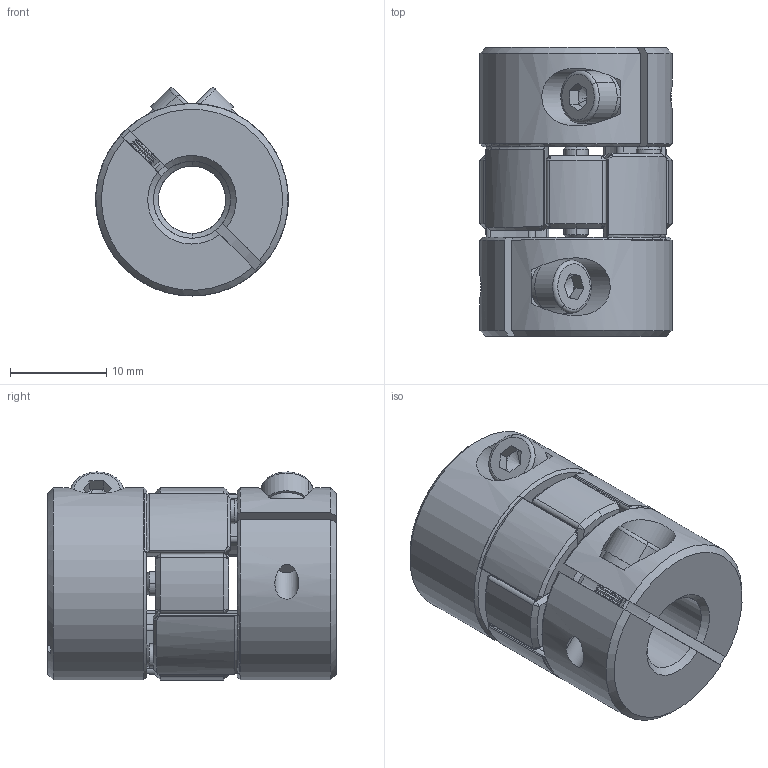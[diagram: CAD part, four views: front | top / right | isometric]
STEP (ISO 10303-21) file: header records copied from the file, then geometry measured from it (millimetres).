
FILE_DESCRIPTION (( 'STEP AP203' ), '1' );
FILE_NAME ('LF-B-D20L30-7-8.STEP', '2021-10-27T02:53:13', ( '' ), ( '' ), 'SwSTEP 2.0', 'SolidWorks 2018', '' );
FILE_SCHEMA (( 'CONFIG_CONTROL_DESIGN' ));
Length unit declared in the file: millimetre
Products named in the file (1): LF-B-D20L30-7-8
Bounding box: 20 x 30 x 21.62 mm (x, y, z)
Volume: 7431.4 mm3; surface area: 4868.1 mm2
Topology: 1 solids, 1 shells, 518 faces, 1253 edges, 691 vertices
Faces by surface type: cone 252, cylinder 192, plane 62, torus 12
Entity records: 15022 total; most frequent: CARTESIAN_POINT 2902, DIRECTION 2742, ORIENTED_EDGE 2426, EDGE_CURVE 1213, AXIS2_PLACEMENT_3D 1107, VERTEX_POINT 691, CIRCLE 588, EDGE_LOOP 546
